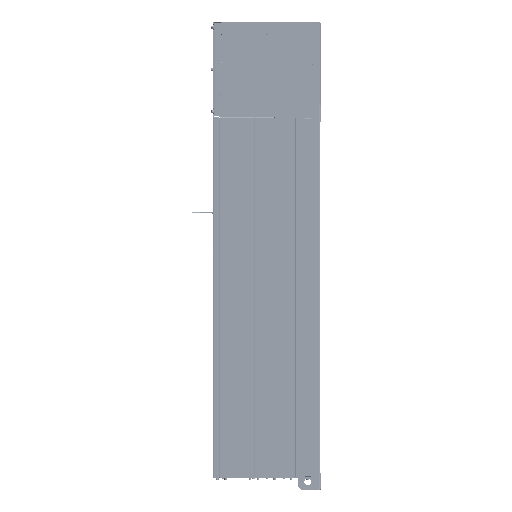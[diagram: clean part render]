
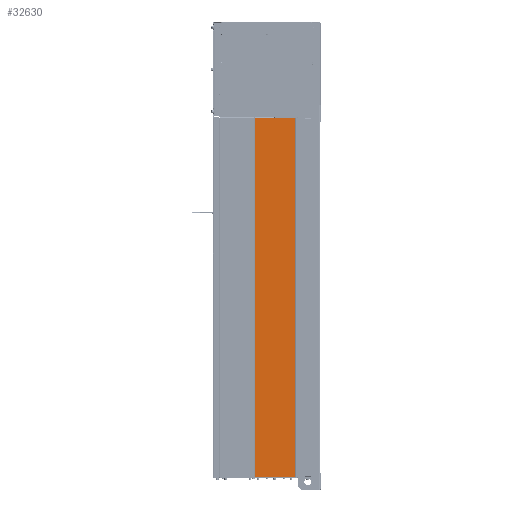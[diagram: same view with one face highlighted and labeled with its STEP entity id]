
A CAD part, left-side view. The second image highlights one B-rep face of the part: STEP entity #32630.
In plain terms, the highlighted planar face has unit normal (-1, 0, 0).
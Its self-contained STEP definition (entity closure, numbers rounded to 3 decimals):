
#31669=DIRECTION('',(0.,0.,1.));
#31670=VECTOR('',#31669,1336.);
#31671=CARTESIAN_POINT('',(-350.,94.4,-1340.5));
#31672=LINE('',#31671,#31670);
#31775=DIRECTION('',(0.,0.,-1.));
#31776=VECTOR('',#31775,1338.);
#31777=CARTESIAN_POINT('',(-350.,241.4,-2.5));
#31778=LINE('',#31777,#31776);
#31845=DIRECTION('',(0.,0.,-1.));
#31846=VECTOR('',#31845,0.5);
#31847=CARTESIAN_POINT('',(-350.,241.4,-2.));
#31848=LINE('',#31847,#31846);
#31857=DIRECTION('',(0.,-1.,0.));
#31858=VECTOR('',#31857,147.);
#31859=CARTESIAN_POINT('',(-350.,241.4,-1340.5));
#31860=LINE('',#31859,#31858);
#31895=DIRECTION('',(0.,1.,0.));
#31896=VECTOR('',#31895,69.5);
#31897=CARTESIAN_POINT('',(-350.,171.9,-2.));
#31898=LINE('',#31897,#31896);
#31992=DIRECTION('',(0.,0.,1.));
#31993=VECTOR('',#31992,2.5);
#31994=CARTESIAN_POINT('',(-350.,171.9,-4.5));
#31995=LINE('',#31994,#31993);
#32005=DIRECTION('',(0.,1.,0.));
#32006=VECTOR('',#32005,2.);
#32007=CARTESIAN_POINT('',(-350.,169.9,-4.5));
#32008=LINE('',#32007,#32006);
#32057=DIRECTION('',(0.,1.,0.));
#32058=VECTOR('',#32057,75.5);
#32059=CARTESIAN_POINT('',(-350.,94.4,-4.5));
#32060=LINE('',#32059,#32058);
#32105=CARTESIAN_POINT('',(-350.,94.4,-4.5));
#32106=VERTEX_POINT('',#32105);
#32109=CARTESIAN_POINT('',(-350.,94.4,-1340.5));
#32110=VERTEX_POINT('',#32109);
#32141=CARTESIAN_POINT('',(-350.,241.4,-1340.5));
#32142=VERTEX_POINT('',#32141);
#32151=CARTESIAN_POINT('',(-350.,241.4,-2.5));
#32152=VERTEX_POINT('',#32151);
#32167=CARTESIAN_POINT('',(-350.,241.4,-2.));
#32168=VERTEX_POINT('',#32167);
#32169=CARTESIAN_POINT('',(-350.,171.9,-2.));
#32170=VERTEX_POINT('',#32169);
#32171=CARTESIAN_POINT('',(-350.,171.9,-4.5));
#32172=VERTEX_POINT('',#32171);
#32173=CARTESIAN_POINT('',(-350.,169.9,-4.5));
#32174=VERTEX_POINT('',#32173);
#32610=CARTESIAN_POINT('',(-350.,241.4,0.));
#32611=DIRECTION('',(-1.,0.,0.));
#32612=DIRECTION('',(0.,-1.,0.));
#32613=AXIS2_PLACEMENT_3D('',#32610,#32611,#32612);
#32614=PLANE('',#32613);
#32616=ORIENTED_EDGE('',*,*,#32615,.F.);
#32617=ORIENTED_EDGE('',*,*,#32488,.F.);
#32618=ORIENTED_EDGE('',*,*,#32601,.F.);
#32620=ORIENTED_EDGE('',*,*,#32619,.F.);
#32622=ORIENTED_EDGE('',*,*,#32621,.F.);
#32624=ORIENTED_EDGE('',*,*,#32623,.F.);
#32626=ORIENTED_EDGE('',*,*,#32625,.F.);
#32627=ORIENTED_EDGE('',*,*,#32304,.F.);
#32628=EDGE_LOOP('',(#32616,#32617,#32618,#32620,#32622,#32624,#32626,#32627));
#32629=FACE_OUTER_BOUND('',#32628,.F.);
#32304=EDGE_CURVE('',#32110,#32106,#31672,.T.);
#32488=EDGE_CURVE('',#32152,#32142,#31778,.T.);
#32601=EDGE_CURVE('',#32168,#32152,#31848,.T.);
#32615=EDGE_CURVE('',#32142,#32110,#31860,.T.);
#32619=EDGE_CURVE('',#32170,#32168,#31898,.T.);
#32621=EDGE_CURVE('',#32172,#32170,#31995,.T.);
#32623=EDGE_CURVE('',#32174,#32172,#32008,.T.);
#32625=EDGE_CURVE('',#32106,#32174,#32060,.T.);
#32630=ADVANCED_FACE('',(#32629),#32614,.T.);
